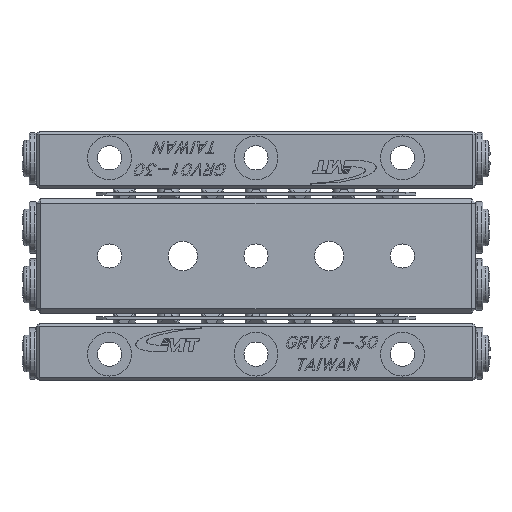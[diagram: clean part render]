
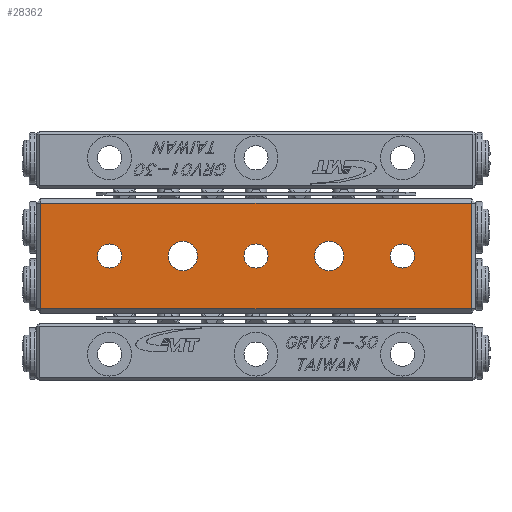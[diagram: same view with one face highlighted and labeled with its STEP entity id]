
A CAD part, front view. The second image highlights one B-rep face of the part: STEP entity #28362.
In plain terms, the highlighted planar face has unit normal (0, -1, 0).
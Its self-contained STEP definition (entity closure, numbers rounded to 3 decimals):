
#13 = DIRECTION ( 'NONE',  ( 0., 0., 1. ) ) ;
#355 = EDGE_CURVE ( 'NONE', #2051, #22803, #6703, .T. ) ;
#375 = CARTESIAN_POINT ( 'NONE',  ( -5., 0., 1. ) ) ;
#960 = VERTEX_POINT ( 'NONE', #13366 ) ;
#1171 = ORIENTED_EDGE ( 'NONE', *, *, #30718, .T. ) ;
#1860 = DIRECTION ( 'NONE',  ( 0., 1., 0. ) ) ;
#2051 = VERTEX_POINT ( 'NONE', #12533 ) ;
#2700 = LINE ( 'NONE', #8991, #24167 ) ;
#3110 = ORIENTED_EDGE ( 'NONE', *, *, #11217, .T. ) ;
#3174 = FACE_BOUND ( 'NONE', #38712, .T. ) ;
#3248 = DIRECTION ( 'NONE',  ( 0., 1., 0. ) ) ;
#4515 = VECTOR ( 'NONE', #5940, 1000. ) ;
#5121 = ORIENTED_EDGE ( 'NONE', *, *, #23205, .T. ) ;
#5245 = FACE_BOUND ( 'NONE', #20454, .T. ) ;
#5349 = VERTEX_POINT ( 'NONE', #28973 ) ;
#5501 = EDGE_CURVE ( 'NONE', #5349, #30556, #2700, .T. ) ;
#5940 = DIRECTION ( 'NONE',  ( 1., 0., 0. ) ) ;
#6548 = EDGE_LOOP ( 'NONE', ( #31917 ) ) ;
#6703 = LINE ( 'NONE', #9964, #4515 ) ;
#7551 = ORIENTED_EDGE ( 'NONE', *, *, #5501, .T. ) ;
#8109 = DIRECTION ( 'NONE',  ( 0., 0., 1. ) ) ;
#8160 = CARTESIAN_POINT ( 'NONE',  ( -5., 0., 0. ) ) ;
#8991 = CARTESIAN_POINT ( 'NONE',  ( -15., 0., 3.6 ) ) ;
#9131 = AXIS2_PLACEMENT_3D ( 'NONE', #12303, #12502, #33694 ) ;
#9964 = CARTESIAN_POINT ( 'NONE',  ( -15., 0., -3.6 ) ) ;
#10265 = EDGE_CURVE ( 'NONE', #18503, #18503, #17283, .T. ) ;
#11196 = DIRECTION ( 'NONE',  ( 0., 0., 1. ) ) ;
#11217 = EDGE_CURVE ( 'NONE', #39859, #39859, #12725, .T. ) ;
#11260 = AXIS2_PLACEMENT_3D ( 'NONE', #39243, #21684, #15176 ) ;
#11396 = AXIS2_PLACEMENT_3D ( 'NONE', #39872, #3248, #27879 ) ;
#12082 = AXIS2_PLACEMENT_3D ( 'NONE', #26457, #39276, #39672 ) ;
#12303 = CARTESIAN_POINT ( 'NONE',  ( 10., 0., 0. ) ) ;
#12502 = DIRECTION ( 'NONE',  ( 0., 1., 0. ) ) ;
#12533 = CARTESIAN_POINT ( 'NONE',  ( -14.7, 0., -3.6 ) ) ;
#12716 = FACE_BOUND ( 'NONE', #6548, .T. ) ;
#12725 = CIRCLE ( 'NONE', #12082, 1. ) ;
#13353 = EDGE_LOOP ( 'NONE', ( #5121, #26586, #25816, #7551 ) ) ;
#13366 = CARTESIAN_POINT ( 'NONE',  ( 10., 0., 0.825 ) ) ;
#14182 = EDGE_CURVE ( 'NONE', #22803, #5349, #18731, .T. ) ;
#14326 = EDGE_LOOP ( 'NONE', ( #20082 ) ) ;
#14922 = EDGE_CURVE ( 'NONE', #31312, #31312, #27542, .T. ) ;
#15176 = DIRECTION ( 'NONE',  ( 0., 0., 1. ) ) ;
#15839 = VERTEX_POINT ( 'NONE', #28257 ) ;
#16358 = DIRECTION ( 'NONE',  ( 0., 0., -1. ) ) ;
#17283 = CIRCLE ( 'NONE', #11396, 0.825 ) ;
#17296 = FACE_OUTER_BOUND ( 'NONE', #13353, .T. ) ;
#17569 = DIRECTION ( 'NONE',  ( -1., 0., 0. ) ) ;
#17740 = CIRCLE ( 'NONE', #28778, 0.825 ) ;
#18295 = CARTESIAN_POINT ( 'NONE',  ( 5., 0., 1. ) ) ;
#18441 = FACE_BOUND ( 'NONE', #14326, .T. ) ;
#18503 = VERTEX_POINT ( 'NONE', #30919 ) ;
#18731 = LINE ( 'NONE', #28095, #32066 ) ;
#19261 = CARTESIAN_POINT ( 'NONE',  ( 14.7, 0., -3.6 ) ) ;
#20082 = ORIENTED_EDGE ( 'NONE', *, *, #25088, .T. ) ;
#20199 = LINE ( 'NONE', #25905, #36459 ) ;
#20454 = EDGE_LOOP ( 'NONE', ( #1171 ) ) ;
#20526 = DIRECTION ( 'NONE',  ( 0., 1., 0. ) ) ;
#21684 = DIRECTION ( 'NONE',  ( 0., 1., 0. ) ) ;
#22803 = VERTEX_POINT ( 'NONE', #19261 ) ;
#23205 = EDGE_CURVE ( 'NONE', #30556, #2051, #20199, .T. ) ;
#24167 = VECTOR ( 'NONE', #17569, 1000. ) ;
#24173 = EDGE_LOOP ( 'NONE', ( #3110 ) ) ;
#25088 = EDGE_CURVE ( 'NONE', #15839, #15839, #17740, .T. ) ;
#25816 = ORIENTED_EDGE ( 'NONE', *, *, #14182, .T. ) ;
#25905 = CARTESIAN_POINT ( 'NONE',  ( -14.7, 0., 3.9 ) ) ;
#26457 = CARTESIAN_POINT ( 'NONE',  ( 5., 0., 0. ) ) ;
#26586 = ORIENTED_EDGE ( 'NONE', *, *, #355, .T. ) ;
#26837 = FACE_BOUND ( 'NONE', #24173, .T. ) ;
#27542 = CIRCLE ( 'NONE', #37286, 1. ) ;
#27879 = DIRECTION ( 'NONE',  ( 0., 0., 1. ) ) ;
#28095 = CARTESIAN_POINT ( 'NONE',  ( 14.7, 0., 3.9 ) ) ;
#28257 = CARTESIAN_POINT ( 'NONE',  ( 0., 0., 0.825 ) ) ;
#28362 = ADVANCED_FACE ( 'NONE', ( #17296, #26837, #3174, #5245, #18441, #12716 ), #31251, .F. ) ;
#28778 = AXIS2_PLACEMENT_3D ( 'NONE', #40196, #20526, #8109 ) ;
#28973 = CARTESIAN_POINT ( 'NONE',  ( 14.7, 0., 3.6 ) ) ;
#30556 = VERTEX_POINT ( 'NONE', #36524 ) ;
#30718 = EDGE_CURVE ( 'NONE', #960, #960, #36408, .T. ) ;
#30919 = CARTESIAN_POINT ( 'NONE',  ( -10., 0., 0.825 ) ) ;
#31251 = PLANE ( 'NONE',  #11260 ) ;
#31312 = VERTEX_POINT ( 'NONE', #375 ) ;
#31917 = ORIENTED_EDGE ( 'NONE', *, *, #10265, .T. ) ;
#32066 = VECTOR ( 'NONE', #13, 1000. ) ;
#33694 = DIRECTION ( 'NONE',  ( 0., 0., 1. ) ) ;
#36408 = CIRCLE ( 'NONE', #9131, 0.825 ) ;
#36459 = VECTOR ( 'NONE', #16358, 1000. ) ;
#36524 = CARTESIAN_POINT ( 'NONE',  ( -14.7, 0., 3.6 ) ) ;
#37286 = AXIS2_PLACEMENT_3D ( 'NONE', #8160, #1860, #11196 ) ;
#37943 = ORIENTED_EDGE ( 'NONE', *, *, #14922, .T. ) ;
#38712 = EDGE_LOOP ( 'NONE', ( #37943 ) ) ;
#39243 = CARTESIAN_POINT ( 'NONE',  ( -15., 0., 3.9 ) ) ;
#39276 = DIRECTION ( 'NONE',  ( 0., 1., 0. ) ) ;
#39672 = DIRECTION ( 'NONE',  ( 0., 0., 1. ) ) ;
#39859 = VERTEX_POINT ( 'NONE', #18295 ) ;
#39872 = CARTESIAN_POINT ( 'NONE',  ( -10., 0., 0. ) ) ;
#40196 = CARTESIAN_POINT ( 'NONE',  ( 0., 0., 0. ) ) ;
